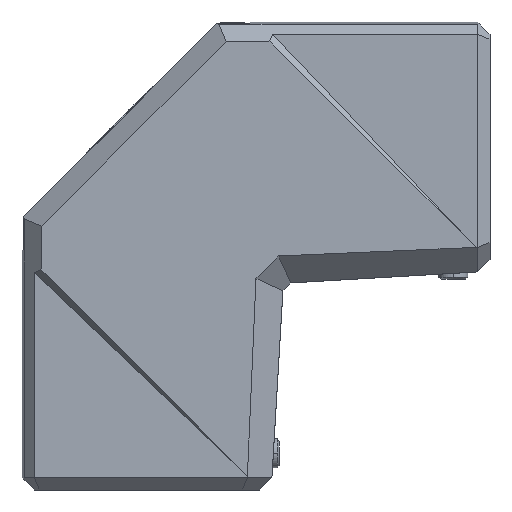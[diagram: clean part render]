
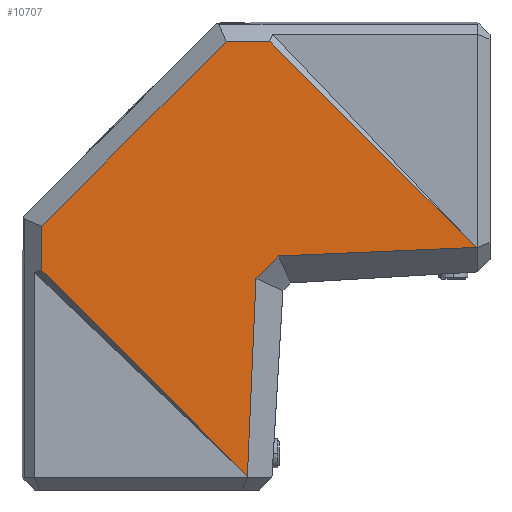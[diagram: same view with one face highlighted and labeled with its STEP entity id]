
A CAD part, left-side view. The second image highlights one B-rep face of the part: STEP entity #10707.
In plain terms, the highlighted planar face has unit normal (-1, -0.016, -0.016).
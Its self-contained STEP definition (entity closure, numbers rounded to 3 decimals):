
#5775=DIRECTION('',(0.023,-0.707,-0.707));
#5776=VECTOR('',#5775,119.157);
#5777=CARTESIAN_POINT('',(-53.752,-50.09,
43.248));
#5778=LINE('',#5777,#5776);
#5782=DIRECTION('',(0.015,-0.999,0.043));
#5783=VECTOR('',#5782,80.691);
#5784=CARTESIAN_POINT('',(-52.279,-53.719,
-44.483));
#5785=LINE('',#5784,#5783);
#5810=DIRECTION('',(-0.015,-0.043,0.999));
#5811=VECTOR('',#5810,80.691);
#5812=CARTESIAN_POINT('',(-51.036,-40.986,
-134.324));
#5813=LINE('',#5812,#5811);
#5859=DIRECTION('',(0.023,-0.707,-0.707));
#5860=VECTOR('',#5859,119.157);
#5861=CARTESIAN_POINT('',(-53.752,43.248,
-50.09));
#5862=LINE('',#5861,#5860);
#5901=DIRECTION('',(-0.016,-0.016,1.));
#5902=VECTOR('',#5901,17.767);
#5903=CARTESIAN_POINT('',(-53.752,43.248,
-50.09));
#5904=LINE('',#5903,#5902);
#5908=DIRECTION('',(0.,-0.707,0.707));
#5909=VECTOR('',#5908,106.482);
#5910=CARTESIAN_POINT('',(-54.033,42.967,
-32.328));
#5911=LINE('',#5910,#5909);
#5915=DIRECTION('',(-0.016,1.,-0.016));
#5916=VECTOR('',#5915,17.767);
#5917=CARTESIAN_POINT('',(-53.752,-50.09,
43.248));
#5918=LINE('',#5917,#5916);
#5922=DIRECTION('',(0.,0.707,-0.707));
#5923=VECTOR('',#5922,13.061);
#5924=CARTESIAN_POINT('',(-52.279,-53.719,
-44.483));
#5925=LINE('',#5924,#5923);
#6220=CARTESIAN_POINT('',(-51.036,-40.986,
-134.324));
#6221=VERTEX_POINT('',#6220);
#6222=CARTESIAN_POINT('',(-52.279,-53.719,
-44.483));
#6223=CARTESIAN_POINT('',(-51.036,-134.324,
-40.986));
#6224=VERTEX_POINT('',#6222);
#6225=VERTEX_POINT('',#6223);
#6226=CARTESIAN_POINT('',(-52.279,-44.483,
-53.719));
#6227=VERTEX_POINT('',#6226);
#6397=CARTESIAN_POINT('',(-53.752,43.248,
-50.09));
#6398=CARTESIAN_POINT('',(-54.033,42.967,
-32.328));
#6399=VERTEX_POINT('',#6397);
#6400=VERTEX_POINT('',#6398);
#6401=CARTESIAN_POINT('',(-54.033,-32.328,
42.967));
#6402=VERTEX_POINT('',#6401);
#6403=CARTESIAN_POINT('',(-53.752,-50.09,
43.248));
#6404=VERTEX_POINT('',#6403);
#10692=CARTESIAN_POINT('',(-54.217,57.669,
-35.669));
#10693=DIRECTION('',(-1.,-0.016,-0.016));
#10694=DIRECTION('',(0.023,-0.707,-0.707));
#10695=AXIS2_PLACEMENT_3D('',#10692,#10693,#10694);
#10696=PLANE('',#10695);
#10697=ORIENTED_EDGE('',*,*,#10615,.T.);
#10698=ORIENTED_EDGE('',*,*,#10678,.T.);
#10699=ORIENTED_EDGE('',*,*,#10440,.F.);
#10700=ORIENTED_EDGE('',*,*,#10464,.T.);
#10701=ORIENTED_EDGE('',*,*,#10484,.F.);
#10702=ORIENTED_EDGE('',*,*,#10507,.T.);
#10703=ORIENTED_EDGE('',*,*,#10533,.F.);
#10704=ORIENTED_EDGE('',*,*,#10591,.F.);
#10705=EDGE_LOOP('',(#10697,#10698,#10699,#10700,#10701,#10702,#10703,#10704));
#10706=FACE_OUTER_BOUND('',#10705,.F.);
#10440=EDGE_CURVE('',#6404,#6402,#5918,.T.);
#10464=EDGE_CURVE('',#6404,#6225,#5778,.T.);
#10484=EDGE_CURVE('',#6224,#6225,#5785,.T.);
#10507=EDGE_CURVE('',#6224,#6227,#5925,.T.);
#10533=EDGE_CURVE('',#6221,#6227,#5813,.T.);
#10591=EDGE_CURVE('',#6399,#6221,#5862,.T.);
#10615=EDGE_CURVE('',#6399,#6400,#5904,.T.);
#10678=EDGE_CURVE('',#6400,#6402,#5911,.T.);
#10707=ADVANCED_FACE('',(#10706),#10696,.T.);
